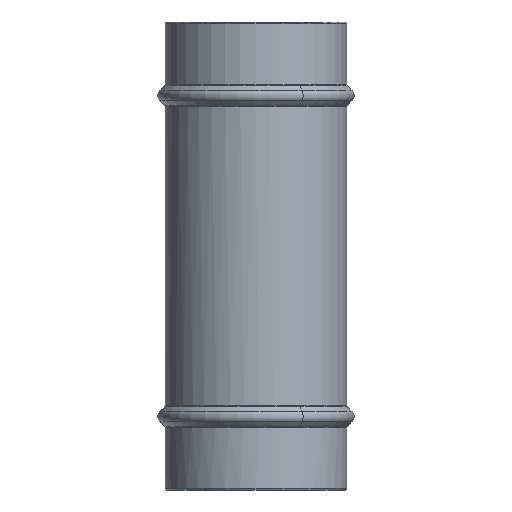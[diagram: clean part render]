
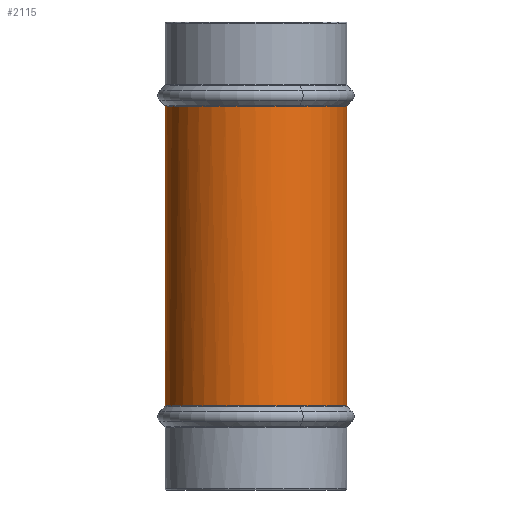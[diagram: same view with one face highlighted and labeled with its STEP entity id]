
A CAD part, front view. The second image highlights one B-rep face of the part: STEP entity #2115.
In plain terms, the highlighted cylindrical face has radius 42.7 mm (diameter 85.4 mm), a partial arc.
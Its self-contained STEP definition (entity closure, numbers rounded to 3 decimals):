
#853=CYLINDRICAL_SURFACE('',#10651,42.7);
#1156=LINE('',#15309,#1627);
#1157=LINE('',#15316,#1628);
#1158=LINE('',#15318,#1629);
#1159=LINE('',#15324,#1630);
#1627=VECTOR('',#11942,1.);
#1628=VECTOR('',#11947,1.);
#1629=VECTOR('',#11948,1.);
#1630=VECTOR('',#11953,1.);
#2115=ADVANCED_FACE('',(#2922),#853,.T.);
#2922=FACE_OUTER_BOUND('',#3563,.T.);
#3563=EDGE_LOOP('',(#4388,#4389,#4390,#4391,#4392,#4393,#4394,#4395,#4396,
#4397));
#4388=ORIENTED_EDGE('',*,*,#8430,.F.);
#4389=ORIENTED_EDGE('',*,*,#8435,.F.);
#4390=ORIENTED_EDGE('',*,*,#8436,.F.);
#4391=ORIENTED_EDGE('',*,*,#8437,.F.);
#4392=ORIENTED_EDGE('',*,*,#8427,.T.);
#4393=ORIENTED_EDGE('',*,*,#8434,.F.);
#4394=ORIENTED_EDGE('',*,*,#8438,.F.);
#4395=ORIENTED_EDGE('',*,*,#8439,.F.);
#4396=ORIENTED_EDGE('',*,*,#8440,.F.);
#4397=ORIENTED_EDGE('',*,*,#8431,.T.);
#7441=VERTEX_POINT('',#15310);
#7442=VERTEX_POINT('',#15311);
#7444=VERTEX_POINT('',#15315);
#7445=VERTEX_POINT('',#15317);
#7446=VERTEX_POINT('',#15319);
#7448=VERTEX_POINT('',#15323);
#7449=VERTEX_POINT('',#15327);
#7450=VERTEX_POINT('',#15329);
#7451=VERTEX_POINT('',#15332);
#7452=VERTEX_POINT('',#15334);
#8427=EDGE_CURVE('',#7441,#7442,#1156,.T.);
#8430=EDGE_CURVE('',#7444,#7445,#1157,.T.);
#8431=EDGE_CURVE('',#7446,#7445,#1158,.T.);
#8434=EDGE_CURVE('',#7448,#7442,#1159,.T.);
#8435=EDGE_CURVE('',#7449,#7444,#9993,.T.);
#8436=EDGE_CURVE('',#7450,#7449,#9994,.T.);
#8437=EDGE_CURVE('',#7441,#7450,#9995,.T.);
#8438=EDGE_CURVE('',#7451,#7448,#9996,.T.);
#8439=EDGE_CURVE('',#7452,#7451,#9997,.T.);
#8440=EDGE_CURVE('',#7446,#7452,#9998,.T.);
#9993=CIRCLE('',#10645,42.7);
#9994=CIRCLE('',#10646,42.7);
#9995=CIRCLE('',#10647,42.7);
#9996=CIRCLE('',#10648,42.7);
#9997=CIRCLE('',#10649,42.7);
#9998=CIRCLE('',#10650,42.7);
#10645=AXIS2_PLACEMENT_3D('',#15326,#11956,#11957);
#10646=AXIS2_PLACEMENT_3D('',#15328,#11958,#11959);
#10647=AXIS2_PLACEMENT_3D('',#15330,#11960,#11961);
#10648=AXIS2_PLACEMENT_3D('',#15331,#11962,#11963);
#10649=AXIS2_PLACEMENT_3D('',#15333,#11964,#11965);
#10650=AXIS2_PLACEMENT_3D('',#15335,#11966,#11967);
#10651=AXIS2_PLACEMENT_3D('',#15336,#11968,#11969);
#11942=DIRECTION('',(0.,0.,1.));
#11947=DIRECTION('',(0.,0.,1.));
#11948=DIRECTION('',(0.,0.,-1.));
#11953=DIRECTION('',(0.,0.,-1.));
#11956=DIRECTION('',(0.,0.,-1.));
#11957=DIRECTION('',(-0.128,-0.992,0.));
#11958=DIRECTION('',(0.,0.,-1.));
#11959=DIRECTION('',(0.479,-0.878,0.));
#11960=DIRECTION('',(0.,0.,-1.));
#11961=DIRECTION('',(1.,0.,0.));
#11962=DIRECTION('',(0.,0.,1.));
#11963=DIRECTION('',(0.479,-0.878,0.));
#11964=DIRECTION('',(0.,0.,1.));
#11965=DIRECTION('',(-0.999,-0.046,0.));
#11966=DIRECTION('',(0.,0.,1.));
#11967=DIRECTION('',(-1.,0.,0.));
#11968=DIRECTION('',(0.,0.,1.));
#11969=DIRECTION('',(1.,0.,0.));
#15309=CARTESIAN_POINT('',(88.9,46.2,-180.343));
#15310=CARTESIAN_POINT('',(88.9,46.2,-180.343));
#15311=CARTESIAN_POINT('',(88.9,46.2,-110.));
#15315=CARTESIAN_POINT('',(3.5,46.2,-180.343));
#15316=CARTESIAN_POINT('',(3.5,46.2,-180.343));
#15317=CARTESIAN_POINT('',(3.5,46.2,-110.));
#15318=CARTESIAN_POINT('',(3.5,46.2,-39.657));
#15319=CARTESIAN_POINT('',(3.5,46.2,-39.657));
#15323=CARTESIAN_POINT('',(88.9,46.2,-39.657));
#15324=CARTESIAN_POINT('',(88.9,46.2,-39.657));
#15326=CARTESIAN_POINT('',(46.2,46.2,-180.343));
#15327=CARTESIAN_POINT('',(40.736,3.851,-180.343));
#15328=CARTESIAN_POINT('',(46.2,46.2,-180.343));
#15329=CARTESIAN_POINT('',(66.671,8.727,-180.343));
#15330=CARTESIAN_POINT('',(46.2,46.2,-180.343));
#15331=CARTESIAN_POINT('',(46.2,46.2,-39.657));
#15332=CARTESIAN_POINT('',(66.671,8.727,-39.657));
#15333=CARTESIAN_POINT('',(46.2,46.2,-39.657));
#15334=CARTESIAN_POINT('',(3.546,44.217,-39.657));
#15335=CARTESIAN_POINT('',(46.2,46.2,-39.657));
#15336=CARTESIAN_POINT('',(46.2,46.2,-55.));
